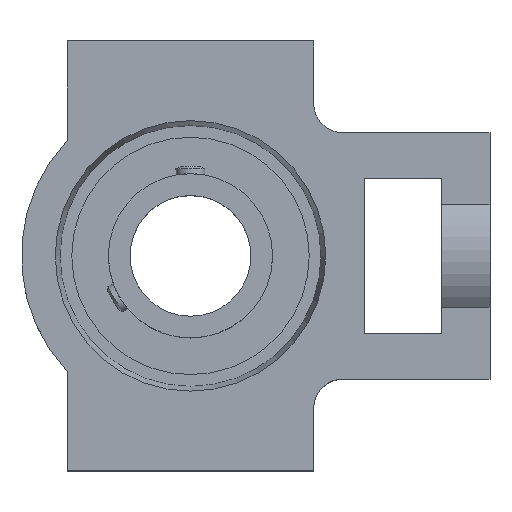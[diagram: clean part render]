
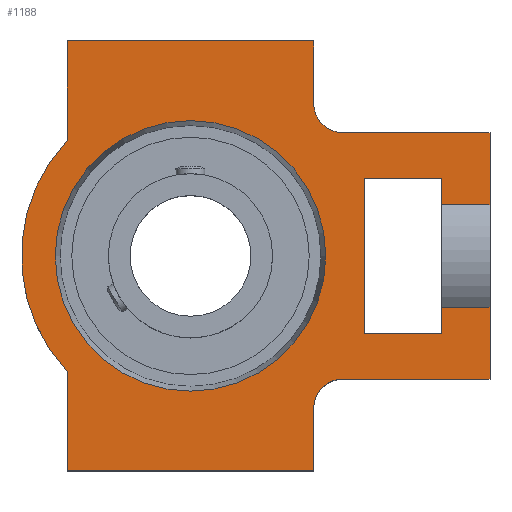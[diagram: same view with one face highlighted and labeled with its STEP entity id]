
A CAD part, top view. The second image highlights one B-rep face of the part: STEP entity #1188.
In plain terms, the highlighted planar face has unit normal (0, 0, 1).
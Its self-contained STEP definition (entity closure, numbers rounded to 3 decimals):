
#123=CARTESIAN_POINT('',(5.26,-35.933,12.));
#124=VERTEX_POINT('',#123);
#131=CARTESIAN_POINT('',(-0.74,-41.933,12.));
#132=VERTEX_POINT('',#131);
#133=CARTESIAN_POINT('',(5.26,-41.933,12.));
#134=DIRECTION('',(0.0,0.0,1.0));
#135=DIRECTION('',(-0.707,0.707,0.0));
#136=AXIS2_PLACEMENT_3D('',#133,#134,#135);
#137=CIRCLE('',#136,6.);
#138=EDGE_CURVE('',#124,#132,#137,.T.);
#163=CARTESIAN_POINT('',(35.76,-35.933,12.));
#164=VERTEX_POINT('',#163);
#171=CARTESIAN_POINT('',(35.76,-35.933,12.));
#172=DIRECTION('',(-1.0,0.0,0.0));
#173=VECTOR('',#172,30.5);
#174=LINE('',#171,#173);
#175=EDGE_CURVE('',#164,#124,#174,.T.);
#196=CARTESIAN_POINT('',(-0.74,21.067,12.));
#197=VERTEX_POINT('',#196);
#204=CARTESIAN_POINT('',(5.26,15.067,12.));
#205=VERTEX_POINT('',#204);
#206=CARTESIAN_POINT('',(5.26,21.067,12.));
#207=DIRECTION('',(0.0,0.0,1.0));
#208=DIRECTION('',(-0.707,-0.707,0.0));
#209=AXIS2_PLACEMENT_3D('',#206,#207,#208);
#210=CIRCLE('',#209,6.);
#211=EDGE_CURVE('',#197,#205,#210,.T.);
#268=CARTESIAN_POINT('',(-0.74,34.067,12.));
#269=VERTEX_POINT('',#268);
#276=CARTESIAN_POINT('',(-0.74,34.067,12.));
#277=DIRECTION('',(0.0,-1.0,0.0));
#278=VECTOR('',#277,13.);
#279=LINE('',#276,#278);
#280=EDGE_CURVE('',#269,#197,#279,.T.);
#423=CARTESIAN_POINT('',(-51.74,-54.933,12.));
#424=VERTEX_POINT('',#423);
#431=CARTESIAN_POINT('',(-51.74,-34.407,12.));
#432=VERTEX_POINT('',#431);
#433=CARTESIAN_POINT('',(-51.74,-54.933,12.));
#434=DIRECTION('',(0.0,1.0,0.0));
#435=VECTOR('',#434,20.526);
#436=LINE('',#433,#435);
#437=EDGE_CURVE('',#424,#432,#436,.T.);
#470=CARTESIAN_POINT('',(-0.74,-54.933,12.));
#471=VERTEX_POINT('',#470);
#478=CARTESIAN_POINT('',(-0.74,-54.933,12.));
#479=DIRECTION('',(-1.0,0.0,0.0));
#480=VECTOR('',#479,51.);
#481=LINE('',#478,#480);
#482=EDGE_CURVE('',#471,#424,#481,.T.);
#597=CARTESIAN_POINT('',(-51.74,34.067,12.));
#598=VERTEX_POINT('',#597);
#605=CARTESIAN_POINT('',(-51.74,34.067,12.));
#606=DIRECTION('',(1.0,0.0,0.0));
#607=VECTOR('',#606,51.);
#608=LINE('',#605,#607);
#609=EDGE_CURVE('',#598,#269,#608,.T.);
#632=CARTESIAN_POINT('',(-51.74,13.541,12.));
#633=VERTEX_POINT('',#632);
#640=CARTESIAN_POINT('',(-51.74,13.541,12.));
#641=DIRECTION('',(0.0,1.0,0.0));
#642=VECTOR('',#641,20.526);
#643=LINE('',#640,#642);
#644=EDGE_CURVE('',#633,#598,#643,.T.);
#715=CARTESIAN_POINT('',(-54.24,-10.433,12.));
#716=VERTEX_POINT('',#715);
#717=CARTESIAN_POINT('',(-26.24,-10.433,12.));
#718=DIRECTION('',(0.0,0.0,-1.0));
#719=DIRECTION('',(-1.0,0.0,0.0));
#720=AXIS2_PLACEMENT_3D('',#717,#718,#719);
#721=CIRCLE('',#720,28.);
#722=EDGE_CURVE('',#716,#716,#721,.T.);
#777=CARTESIAN_POINT('',(25.76,0.15,12.));
#778=VERTEX_POINT('',#777);
#779=CARTESIAN_POINT('',(25.76,-21.016,12.));
#780=VERTEX_POINT('',#779);
#788=CARTESIAN_POINT('',(35.76,-21.016,12.));
#789=VERTEX_POINT('',#788);
#790=CARTESIAN_POINT('',(35.76,-21.016,12.));
#791=DIRECTION('',(-1.0,0.0,0.0));
#792=VECTOR('',#791,10.0);
#793=LINE('',#790,#792);
#794=EDGE_CURVE('',#789,#780,#793,.T.);
#796=CARTESIAN_POINT('',(35.76,0.15,12.));
#797=VERTEX_POINT('',#796);
#805=CARTESIAN_POINT('',(25.76,0.15,12.));
#806=DIRECTION('',(1.0,0.0,0.0));
#807=VECTOR('',#806,10.0);
#808=LINE('',#805,#807);
#809=EDGE_CURVE('',#778,#797,#808,.T.);
#847=CARTESIAN_POINT('',(25.76,5.567,12.));
#848=VERTEX_POINT('',#847);
#849=CARTESIAN_POINT('',(25.76,5.567,12.));
#850=DIRECTION('',(0.0,-1.0,0.0));
#851=VECTOR('',#850,5.417);
#852=LINE('',#849,#851);
#853=EDGE_CURVE('',#848,#778,#852,.T.);
#878=CARTESIAN_POINT('',(25.76,-26.433,12.));
#879=VERTEX_POINT('',#878);
#886=CARTESIAN_POINT('',(25.76,-21.016,12.));
#887=DIRECTION('',(0.0,-1.0,0.0));
#888=VECTOR('',#887,5.417);
#889=LINE('',#886,#888);
#890=EDGE_CURVE('',#780,#879,#889,.T.);
#904=CARTESIAN_POINT('',(9.76,-26.433,12.));
#905=VERTEX_POINT('',#904);
#906=CARTESIAN_POINT('',(25.76,-26.433,12.));
#907=DIRECTION('',(-1.0,0.0,0.0));
#908=VECTOR('',#907,16.0);
#909=LINE('',#906,#908);
#910=EDGE_CURVE('',#879,#905,#909,.T.);
#935=CARTESIAN_POINT('',(9.76,5.567,12.));
#936=VERTEX_POINT('',#935);
#937=CARTESIAN_POINT('',(9.76,-26.433,12.));
#938=DIRECTION('',(0.0,1.0,0.0));
#939=VECTOR('',#938,32.0);
#940=LINE('',#937,#939);
#941=EDGE_CURVE('',#905,#936,#940,.T.);
#966=CARTESIAN_POINT('',(9.76,5.567,12.));
#967=DIRECTION('',(1.0,0.0,0.0));
#968=VECTOR('',#967,16.);
#969=LINE('',#966,#968);
#970=EDGE_CURVE('',#936,#848,#969,.T.);
#1055=CARTESIAN_POINT('',(35.76,15.067,12.));
#1056=VERTEX_POINT('',#1055);
#1057=CARTESIAN_POINT('',(5.26,15.067,12.));
#1058=DIRECTION('',(1.0,0.0,0.0));
#1059=VECTOR('',#1058,30.5);
#1060=LINE('',#1057,#1059);
#1061=EDGE_CURVE('',#205,#1056,#1060,.T.);
#1078=CARTESIAN_POINT('',(35.76,15.067,12.));
#1079=DIRECTION('',(0.0,-1.0,0.0));
#1080=VECTOR('',#1079,14.917);
#1081=LINE('',#1078,#1080);
#1082=EDGE_CURVE('',#1056,#797,#1081,.T.);
#1085=CARTESIAN_POINT('',(35.76,-21.016,12.));
#1086=DIRECTION('',(0.0,-1.0,0.0));
#1087=VECTOR('',#1086,14.917);
#1088=LINE('',#1085,#1087);
#1089=EDGE_CURVE('',#789,#164,#1088,.T.);
#1108=CARTESIAN_POINT('',(-0.74,-41.933,12.));
#1109=DIRECTION('',(0.0,-1.0,0.0));
#1110=VECTOR('',#1109,13.);
#1111=LINE('',#1108,#1110);
#1112=EDGE_CURVE('',#132,#471,#1111,.T.);
#1145=CARTESIAN_POINT('',(-26.24,-10.433,12.));
#1146=DIRECTION('',(0.0,0.0,-1.0));
#1147=DIRECTION('',(-0.729,0.685,0.0));
#1148=AXIS2_PLACEMENT_3D('',#1145,#1146,#1147);
#1149=CIRCLE('',#1148,35.0);
#1150=EDGE_CURVE('',#432,#633,#1149,.T.);
#1158=CARTESIAN_POINT('',(-13.294,-10.433,12.));
#1159=DIRECTION('',(0.0,0.0,1.0));
#1160=DIRECTION('',(1.0,0.0,0.0));
#1161=AXIS2_PLACEMENT_3D('',#1158,#1159,#1160);
#1162=PLANE('',#1161);
#1163=ORIENTED_EDGE('',*,*,#794,.T.);
#1164=ORIENTED_EDGE('',*,*,#890,.T.);
#1165=ORIENTED_EDGE('',*,*,#910,.T.);
#1166=ORIENTED_EDGE('',*,*,#941,.T.);
#1167=ORIENTED_EDGE('',*,*,#970,.T.);
#1168=ORIENTED_EDGE('',*,*,#853,.T.);
#1169=ORIENTED_EDGE('',*,*,#809,.T.);
#1170=ORIENTED_EDGE('',*,*,#1082,.F.);
#1171=ORIENTED_EDGE('',*,*,#1061,.F.);
#1172=ORIENTED_EDGE('',*,*,#211,.F.);
#1173=ORIENTED_EDGE('',*,*,#280,.F.);
#1174=ORIENTED_EDGE('',*,*,#609,.F.);
#1175=ORIENTED_EDGE('',*,*,#644,.F.);
#1176=ORIENTED_EDGE('',*,*,#1150,.F.);
#1177=ORIENTED_EDGE('',*,*,#437,.F.);
#1178=ORIENTED_EDGE('',*,*,#482,.F.);
#1179=ORIENTED_EDGE('',*,*,#1112,.F.);
#1180=ORIENTED_EDGE('',*,*,#138,.F.);
#1181=ORIENTED_EDGE('',*,*,#175,.F.);
#1182=ORIENTED_EDGE('',*,*,#1089,.F.);
#1183=EDGE_LOOP('',(#1163,#1164,#1165,#1166,#1167,#1168,#1169,#1170,#1171,#1172,#1173,#1174,#1175,#1176,#1177,#1178,#1179,#1180,#1181,#1182));
#1184=FACE_OUTER_BOUND('',#1183,.T.);
#1185=ORIENTED_EDGE('',*,*,#722,.T.);
#1186=EDGE_LOOP('',(#1185));
#1187=FACE_BOUND('',#1186,.T.);
#1188=ADVANCED_FACE('',(#1184,#1187),#1162,.T.);
